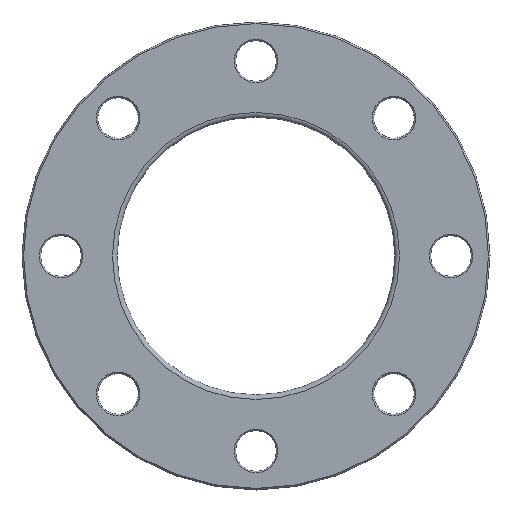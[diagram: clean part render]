
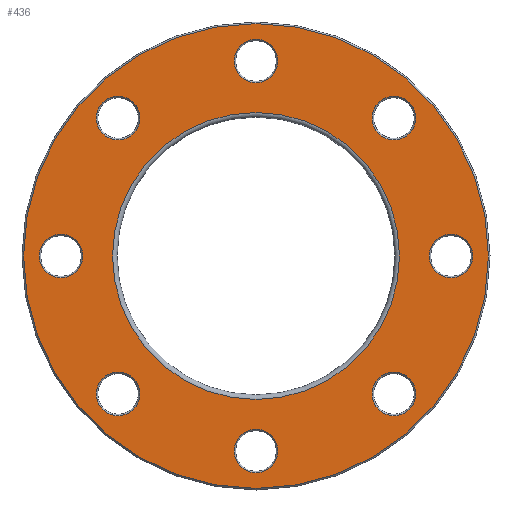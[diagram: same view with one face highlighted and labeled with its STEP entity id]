
A CAD part, front view. The second image highlights one B-rep face of the part: STEP entity #436.
In plain terms, the highlighted planar face has unit normal (0, -1, 0).
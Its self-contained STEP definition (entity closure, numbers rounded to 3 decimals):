
#23=PLANE('',#516);
#98=ORIENTED_EDGE('',*,*,#157,.T.);
#99=ORIENTED_EDGE('',*,*,#158,.T.);
#100=ORIENTED_EDGE('',*,*,#124,.T.);
#101=ORIENTED_EDGE('',*,*,#128,.T.);
#102=ORIENTED_EDGE('',*,*,#132,.T.);
#103=ORIENTED_EDGE('',*,*,#136,.T.);
#104=ORIENTED_EDGE('',*,*,#140,.T.);
#105=ORIENTED_EDGE('',*,*,#144,.T.);
#106=ORIENTED_EDGE('',*,*,#148,.T.);
#107=ORIENTED_EDGE('',*,*,#159,.T.);
#124=EDGE_CURVE('',#164,#164,#204,.T.);
#128=EDGE_CURVE('',#168,#168,#208,.T.);
#132=EDGE_CURVE('',#172,#172,#212,.T.);
#136=EDGE_CURVE('',#176,#176,#216,.T.);
#140=EDGE_CURVE('',#180,#180,#220,.T.);
#144=EDGE_CURVE('',#184,#184,#224,.T.);
#148=EDGE_CURVE('',#188,#188,#228,.T.);
#157=EDGE_CURVE('',#197,#197,#237,.F.);
#158=EDGE_CURVE('',#198,#198,#238,.T.);
#159=EDGE_CURVE('',#199,#199,#239,.T.);
#164=VERTEX_POINT('',#683);
#168=VERTEX_POINT('',#694);
#172=VERTEX_POINT('',#705);
#176=VERTEX_POINT('',#716);
#180=VERTEX_POINT('',#727);
#184=VERTEX_POINT('',#738);
#188=VERTEX_POINT('',#749);
#197=VERTEX_POINT('',#772);
#198=VERTEX_POINT('',#774);
#199=VERTEX_POINT('',#776);
#204=CIRCLE('',#461,14.);
#208=CIRCLE('',#468,14.);
#212=CIRCLE('',#475,14.);
#216=CIRCLE('',#482,14.);
#220=CIRCLE('',#489,14.);
#224=CIRCLE('',#496,14.);
#228=CIRCLE('',#503,14.);
#237=CIRCLE('',#517,149.);
#238=CIRCLE('',#518,92.);
#239=CIRCLE('',#519,14.);
#298=EDGE_LOOP('',(#98));
#299=EDGE_LOOP('',(#99));
#300=EDGE_LOOP('',(#100));
#301=EDGE_LOOP('',(#101));
#302=EDGE_LOOP('',(#102));
#303=EDGE_LOOP('',(#103));
#304=EDGE_LOOP('',(#104));
#305=EDGE_LOOP('',(#105));
#306=EDGE_LOOP('',(#106));
#307=EDGE_LOOP('',(#107));
#378=FACE_BOUND('',#298,.T.);
#379=FACE_BOUND('',#299,.T.);
#380=FACE_BOUND('',#300,.T.);
#381=FACE_BOUND('',#301,.T.);
#382=FACE_BOUND('',#302,.T.);
#383=FACE_BOUND('',#303,.T.);
#384=FACE_BOUND('',#304,.T.);
#385=FACE_BOUND('',#305,.T.);
#386=FACE_BOUND('',#306,.T.);
#387=FACE_BOUND('',#307,.T.);
#436=ADVANCED_FACE('',(#378,#379,#380,#381,#382,#383,#384,#385,#386,#387),
#23,.F.);
#461=AXIS2_PLACEMENT_3D('',#682,#539,#540);
#468=AXIS2_PLACEMENT_3D('',#693,#553,#554);
#475=AXIS2_PLACEMENT_3D('',#704,#567,#568);
#482=AXIS2_PLACEMENT_3D('',#715,#581,#582);
#489=AXIS2_PLACEMENT_3D('',#726,#595,#596);
#496=AXIS2_PLACEMENT_3D('',#737,#609,#610);
#503=AXIS2_PLACEMENT_3D('',#748,#623,#624);
#516=AXIS2_PLACEMENT_3D('',#770,#649,#650);
#517=AXIS2_PLACEMENT_3D('',#771,#651,#652);
#518=AXIS2_PLACEMENT_3D('',#773,#653,#654);
#519=AXIS2_PLACEMENT_3D('',#775,#655,#656);
#539=DIRECTION('',(0.,1.,0.));
#540=DIRECTION('',(0.707,0.,0.707));
#553=DIRECTION('',(0.,1.,0.));
#554=DIRECTION('',(0.,0.,1.));
#567=DIRECTION('',(0.,1.,0.));
#568=DIRECTION('',(-0.707,0.,0.707));
#581=DIRECTION('',(0.,1.,0.));
#582=DIRECTION('',(-1.,0.,0.));
#595=DIRECTION('',(0.,1.,0.));
#596=DIRECTION('',(-0.707,0.,-0.707));
#609=DIRECTION('',(0.,1.,0.));
#610=DIRECTION('',(0.,0.,-1.));
#623=DIRECTION('',(0.,1.,0.));
#624=DIRECTION('',(0.707,0.,-0.707));
#649=DIRECTION('',(0.,1.,0.));
#650=DIRECTION('',(0.,0.,1.));
#651=DIRECTION('',(0.,1.,0.));
#652=DIRECTION('',(0.,0.,1.));
#653=DIRECTION('',(0.,1.,0.));
#654=DIRECTION('',(0.,0.,1.));
#655=DIRECTION('',(0.,1.,0.));
#656=DIRECTION('',(1.,0.,0.));
#682=CARTESIAN_POINT('',(-88.388,0.,88.388));
#683=CARTESIAN_POINT('',(-78.489,0.,98.288));
#693=CARTESIAN_POINT('',(-125.,0.,0.));
#694=CARTESIAN_POINT('',(-125.,0.,14.));
#704=CARTESIAN_POINT('',(-88.388,0.,-88.388));
#705=CARTESIAN_POINT('',(-98.288,0.,-78.489));
#715=CARTESIAN_POINT('',(0.,0.,-125.));
#716=CARTESIAN_POINT('',(-14.,0.,-125.));
#726=CARTESIAN_POINT('',(88.388,0.,-88.388));
#727=CARTESIAN_POINT('',(78.489,0.,-98.288));
#737=CARTESIAN_POINT('',(125.,0.,0.));
#738=CARTESIAN_POINT('',(125.,0.,-14.));
#748=CARTESIAN_POINT('',(88.388,0.,88.388));
#749=CARTESIAN_POINT('',(98.288,0.,78.489));
#770=CARTESIAN_POINT('',(0.,0.,0.));
#771=CARTESIAN_POINT('',(0.,0.,0.));
#772=CARTESIAN_POINT('',(0.,0.,149.));
#773=CARTESIAN_POINT('',(0.,0.,0.));
#774=CARTESIAN_POINT('',(0.,0.,92.));
#775=CARTESIAN_POINT('',(0.,0.,125.));
#776=CARTESIAN_POINT('',(14.,0.,125.));
